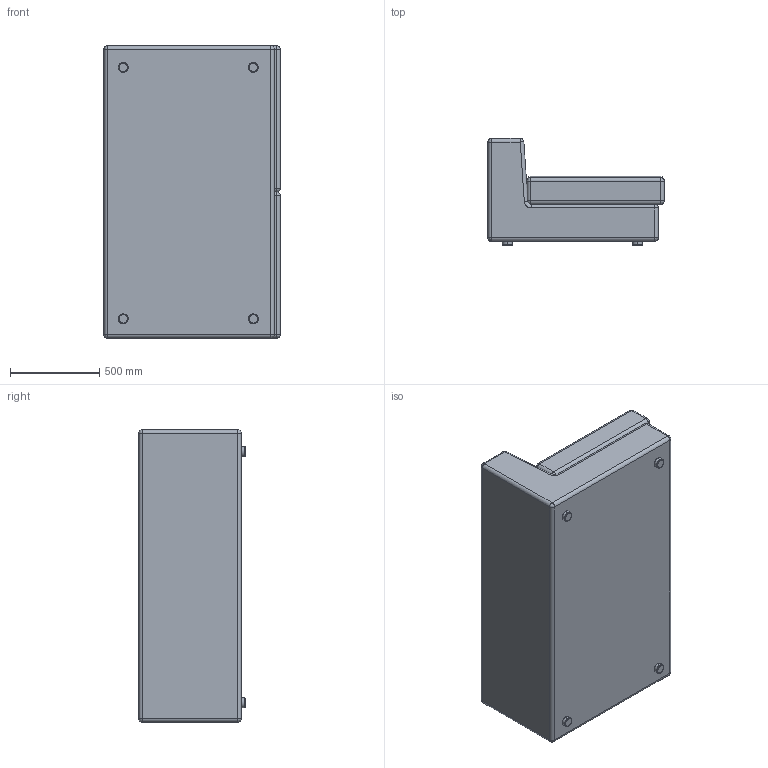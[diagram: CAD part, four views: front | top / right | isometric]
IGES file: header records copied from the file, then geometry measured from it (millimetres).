
Start section: SolidWorks IGES file using NURBS representation for surfaces
Global section: file name: G:\VICCARBE\PRODUCTOS\18-BERRY\04-MODELADOS (PLANOS)\SOLIDWORKS\ELEMENTOS\VICCARBE_Berry_B3.IGS; native system: SolidWorks 2009; preprocessor: SolidWorks 2009; author: RUBEN; date: 110902.094441; units: millimetre
Bounding box: 987.72 x 598 x 1640 mm (x, y, z)
Surface area: 8810066.6 mm2 (no closed solid volume)
Topology: 0 solids, 0 shells, 114 faces, 960 edges, 934 vertices
Faces by surface type: bspline 114
